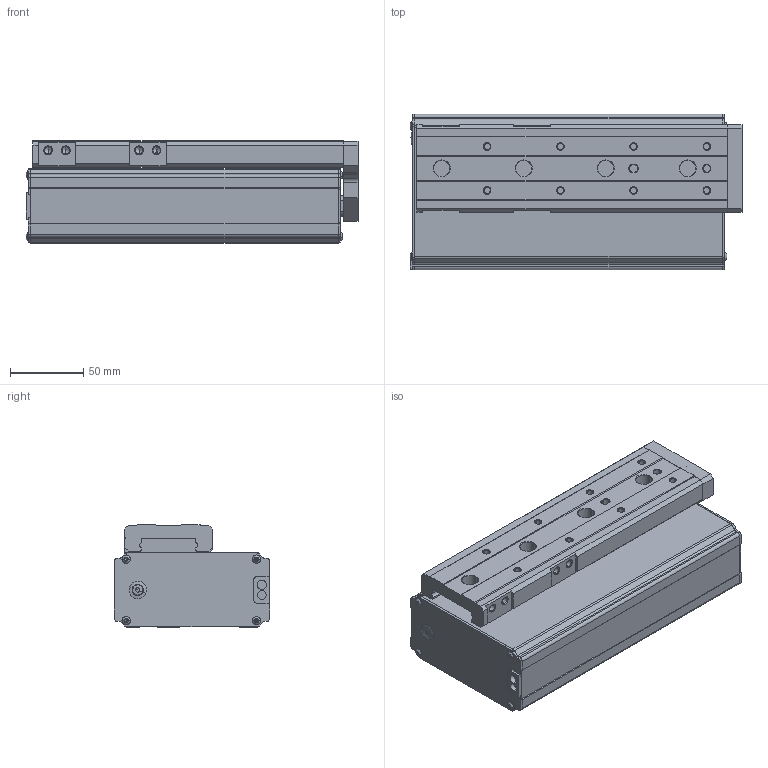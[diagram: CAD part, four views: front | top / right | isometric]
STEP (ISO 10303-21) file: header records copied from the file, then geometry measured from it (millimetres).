
FILE_DESCRIPTION (( 'STEP AP203' ), '1' );
FILE_NAME ('CSS20L-2-100.STEP', '2025-03-04T02:41:42', ( '微软用户' ), ( '微软中国' ), 'SwSTEP 2.0', 'SolidWorks 2018', '' );
FILE_SCHEMA (( 'CONFIG_CONTROL_DESIGN' ));
Length unit declared in the file: millimetre
Products named in the file (12): 复件 SVS-WS2-RB24011L-P003  安装板（左折）^CSS20L-2-100（WS2）; 复件 SVS-WS2-RB24011L-P001-01  FRAME（左折 全包，ST=100）^CSS20L-2-100（WS2）; 复件 SVS-WS2-RB24011L-P009  固线块（借SVS-WS-RB24042-P007）^CSS20L-2-100（WS2）; 复件 SVS-WS2-RB24011L-P006  盖板2^CSS20L-2-100（WS2）; CSS20L-2-100; 复件 SVS-WS2-RB24011L-B007  堵头塞子（靓亿家五金店 φ8宽边带槽型  淘宝）^CSS20L-2-100（WS2）; 复件 内六角杯头螺钉M5-10^CSS20L-2-100（WS2）; 复件 SVS-WS2-RB24011L-P004  空心圆杆（ST=100）^CSS20L-2-100（WS2）; socket button head screw_iso_ISO 7380 - M3 x 8 - 8N; 复件 内六角杯头螺钉M4-10^CSS20L-2-100（WS2）; 复件 SVS-WS2-RB24011L-B002-01  MXQ20-100导轨^CSS20L-2-100（WS2）; 复件 SVS-WS2-RB24011L-P005  盖板1（电机端）^CSS20L-2-100（WS2）
Assembly tree (19 placements, depth 2):
  CSS20L-2-100
    复件 SVS-WS2-RB24011L-P001-01  FRAME（左折 全包，ST=100）^CSS20L-2-100（WS2）
    复件 SVS-WS2-RB24011L-P003  安装板（左折）^CSS20L-2-100（WS2）
    复件 SVS-WS2-RB24011L-P004  空心圆杆（ST=100）^CSS20L-2-100（WS2）
    复件 SVS-WS2-RB24011L-P005  盖板1（电机端）^CSS20L-2-100（WS2）
    复件 SVS-WS2-RB24011L-P006  盖板2^CSS20L-2-100（WS2）
    复件 SVS-WS2-RB24011L-P009  固线块（借SVS-WS-RB24042-P007）^CSS20L-2-100（WS2）
    复件 SVS-WS2-RB24011L-B002-01  MXQ20-100导轨^CSS20L-2-100（WS2）
    复件 SVS-WS2-RB24011L-B007  堵头塞子（靓亿家五金店 φ8宽边带槽型  淘宝）^CSS20L-2-100（WS2）
    复件 内六角杯头螺钉M4-10^CSS20L-2-100（WS2）
    复件 内六角杯头螺钉M5-10^CSS20L-2-100（WS2）  x2
    socket button head screw_iso_ISO 7380 - M3 x 8 - 8N  x8
Bounding box: 226.65 x 106 x 70 mm (x, y, z)
Volume: 1240085.1 mm3; surface area: 174753.6 mm2
Topology: 19 solids, 19 shells, 776 faces, 1926 edges, 1183 vertices
Faces by surface type: plane 328, cylinder 255, cone 147, torus 28, sphere 18
Entity records: 18797 total; most frequent: DIRECTION 3143, CARTESIAN_POINT 3099, ORIENTED_EDGE 2832, EDGE_CURVE 1416, AXIS2_PLACEMENT_3D 1148, VERTEX_POINT 912, VECTOR 847, LINE 847
